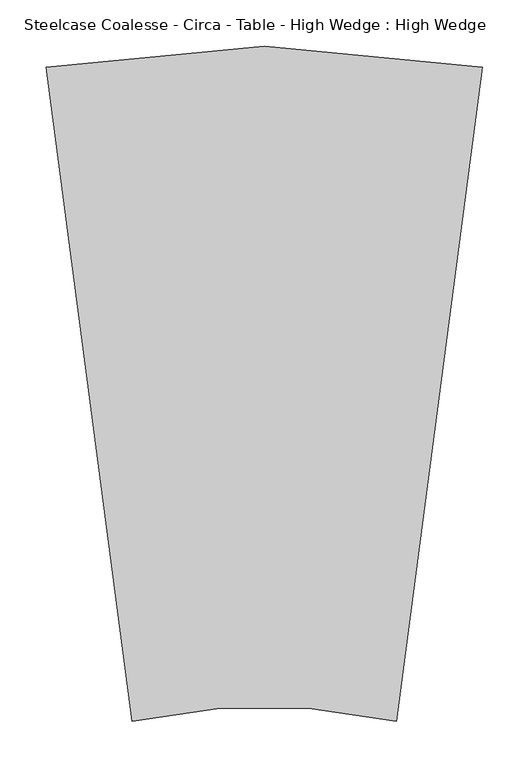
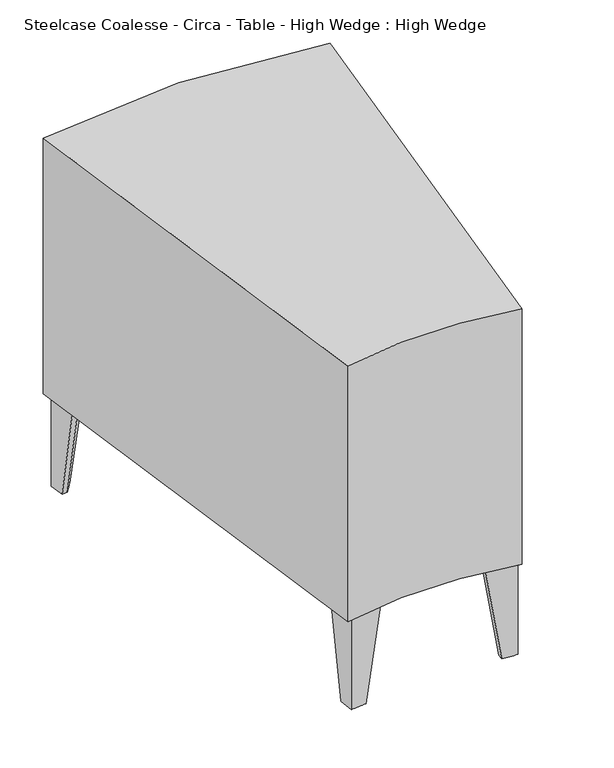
"""IFC4 building model written with IfcOpenShell, lengths in millimetres: furniture geometry, Steelcase Coalesse - Circa - Table - High Wedge : High Wedge."""

import ifcopenshell
import ifcopenshell.guid

model = None  # the IFC model being written
_history = None  # IfcOwnerHistory: only IFC2X3 demands one
_inside = {}  # id of a spatial element -> (the spatial element, [elements in it])
_under = {}  # id of a project, library or spatial element -> (it, [spatial elements below it])
_declared = {}  # id of a project -> (the project, [libraries it declares])
_typed = {}  # id of a type object -> (the type object, [elements of that type])
_made_of = {}  # id of a material, layer set ... -> (it, [elements and type objects made of it])


def new_model(schema):
    """Start an empty IFC model of exactly this schema.

    Asked for "IFC4X3", IfcOpenShell would pick the latest addendum, in which some entities
    have other attributes; the version numbers below select the first issue.
    IFC2X3 requires an IfcOwnerHistory on every rooted entity: one is made here for all.
    """
    global model, _history
    if schema == "IFC4X3":
        model = ifcopenshell.file(schema_version=(4, 3, 0, 0))
    else:
        model = ifcopenshell.file(schema=schema)
    _inside.clear()
    _under.clear()
    _declared.clear()
    _typed.clear()
    _made_of.clear()
    _history = None
    if model.schema == "IFC2X3":
        org = make("IfcOrganization", Name="unknown")
        user = make(
            "IfcPersonAndOrganization",
            ThePerson=make("IfcPerson", FamilyName="unknown"),
            TheOrganization=org,
        )
        app = make(
            "IfcApplication",
            ApplicationDeveloper=org,
            Version="unknown",
            ApplicationFullName="unknown",
            ApplicationIdentifier="unknown",
        )
        _history = make(
            "IfcOwnerHistory",
            OwningUser=user,
            OwningApplication=app,
            ChangeAction="ADDED",
            CreationDate=0,
        )
    return model


def make(cls, **values):
    """One entity of the class cls with the attributes given. An attribute that is None is left unset."""
    return model.create_entity(
        cls, **{name: value for name, value in values.items() if value is not None}
    )


def rooted(cls, **values):
    """An entity with a GlobalId (a new one), such as an element, a storey or a relation."""
    return make(cls, GlobalId=ifcopenshell.guid.new(), OwnerHistory=_history, **values)


def si_unit(unit_type, name, prefix=None):
    """IfcSIUnit, for example si_unit("LENGTHUNIT", "METRE", prefix="MILLI")."""
    return make("IfcSIUnit", UnitType=unit_type, Prefix=prefix, Name=name)


def assignment(units):
    """IfcUnitAssignment: the units of a project."""
    return None if units is None else make("IfcUnitAssignment", Units=units)


def point(xyz):
    """IfcCartesianPoint."""
    return None if xyz is None else make("IfcCartesianPoint", Coordinates=xyz)


def direction(xyz):
    """IfcDirection."""
    return None if xyz is None else make("IfcDirection", DirectionRatios=xyz)


def frame(location, z_axis=None, x_axis=None):
    """IfcAxis2Placement3D, a coordinate frame: its origin and axes. An axis left out is left unset."""
    return make(
        "IfcAxis2Placement3D",
        Location=point(location),
        Axis=direction(z_axis),
        RefDirection=direction(x_axis),
    )


def frame_2d(location, x_axis=None):
    """IfcAxis2Placement2D, a coordinate frame in the plane: its origin and x axis."""
    return make(
        "IfcAxis2Placement2D", Location=point(location), RefDirection=direction(x_axis)
    )


def origin():
    """The frame at (0, 0, 0) with its axes left unset."""
    return frame((0.0, 0.0, 0.0))


def place(relative_to, where):
    """IfcLocalPlacement: puts the frame where relative to a parent placement (None: the world)."""
    return make(
        "IfcLocalPlacement", PlacementRelTo=relative_to, RelativePlacement=where
    )


def context(
    kind, dimensions, precision=None, world=None, true_north=None, identifier=None
):
    """IfcGeometricRepresentationContext, for example the 3D "Model" context."""
    return make(
        "IfcGeometricRepresentationContext",
        ContextIdentifier=identifier,
        ContextType=kind,
        CoordinateSpaceDimension=dimensions,
        Precision=precision,
        WorldCoordinateSystem=world,
        TrueNorth=true_north,
    )


def project(units=None, contexts=None):
    """IfcProject with its units and contexts."""
    return rooted(
        "IfcProject",
        Name="project",
        RepresentationContexts=contexts,
        UnitsInContext=assignment(units),
    )


def spatial(cls, under=None, at=None, **own):
    """A site, building, storey or space (cls), placed at a placement, below another one or the project."""
    s = rooted(cls, ObjectPlacement=at, **own)
    if under is not None:
        _under.setdefault(under.id(), (under, []))[1].append(s)
    return s


def polyline(points):
    """IfcPolyline through the points."""
    return make("IfcPolyline", Points=[point(p) for p in points])


def circle_curve(where, radius):
    """IfcCircle in the frame where."""
    return make("IfcCircle", Position=where, Radius=radius)


def trimmed(basis, trim1, trim2, sense, master):
    """IfcTrimmedCurve: the piece of a basis curve between two trims."""
    return make(
        "IfcTrimmedCurve",
        BasisCurve=basis,
        Trim1=trim1,
        Trim2=trim2,
        SenseAgreement=sense,
        MasterRepresentation=master,
    )


def segment(curve, same_sense, transition):
    """IfcCompositeCurveSegment."""
    return make(
        "IfcCompositeCurveSegment",
        Transition=transition,
        SameSense=same_sense,
        ParentCurve=curve,
    )


def composite_curve(segments, self_intersect=None):
    """IfcCompositeCurve: segments joined end to end."""
    return make("IfcCompositeCurve", Segments=segments, SelfIntersect=self_intersect)


def outline(outer, holes=None, kind="AREA"):
    """IfcArbitraryClosedProfileDef: a profile drawn as a closed curve; with holes, ...WithVoids."""
    if holes is None:
        return make("IfcArbitraryClosedProfileDef", ProfileType=kind, OuterCurve=outer)
    return make(
        "IfcArbitraryProfileDefWithVoids",
        ProfileType=kind,
        OuterCurve=outer,
        InnerCurves=holes,
    )


def extrude(swept, where, along, depth):
    """IfcExtrudedAreaSolid: the profile swept, set in the frame where, extruded along a direction by depth."""
    return make(
        "IfcExtrudedAreaSolid",
        SweptArea=swept,
        Position=where,
        ExtrudedDirection=direction(along),
        Depth=depth,
    )


def shape(context_of_items, identifier, shape_type, items):
    """IfcShapeRepresentation: the items that make up one representation, for example the "Body"."""
    return make(
        "IfcShapeRepresentation",
        ContextOfItems=context_of_items,
        RepresentationIdentifier=identifier,
        RepresentationType=shape_type,
        Items=items,
    )


def source(mapping_origin, context_of_items, identifier, shape_type, items):
    """IfcRepresentationMap: a shape defined once, which mapped items show again and again."""
    return make(
        "IfcRepresentationMap",
        MappingOrigin=mapping_origin,
        MappedRepresentation=shape(context_of_items, identifier, shape_type, items),
    )


def transform(
    local_origin,
    x_axis=None,
    y_axis=None,
    z_axis=None,
    scale=None,
    scale2=None,
    scale3=None,
    uniform=True,
):
    """IfcCartesianTransformationOperator3D, or its non-uniform kind. x_axis, y_axis, z_axis: its Axis1, 2, 3."""
    if uniform:
        return make(
            "IfcCartesianTransformationOperator3D",
            Axis1=direction(x_axis),
            Axis2=direction(y_axis),
            LocalOrigin=point(local_origin),
            Scale=scale,
            Axis3=direction(z_axis),
        )
    return make(
        "IfcCartesianTransformationOperator3DnonUniform",
        Axis1=direction(x_axis),
        Axis2=direction(y_axis),
        LocalOrigin=point(local_origin),
        Scale=scale,
        Axis3=direction(z_axis),
        Scale2=scale2,
        Scale3=scale3,
    )


def mapped(mapping_source, mapping_target):
    """IfcMappedItem: shows the shape of a source again, moved by a transform."""
    return make(
        "IfcMappedItem", MappingSource=mapping_source, MappingTarget=mapping_target
    )


def made_of(thing, what):
    """Note that an element or type object is made of a material, layer set ...; save() writes the relation."""
    if what is not None:
        _made_of.setdefault(what.id(), (what, []))[1].append(thing)
    return thing


def element(
    cls,
    number,
    at=None,
    inside=None,
    cuts=None,
    type_object=None,
    material=None,
    context=None,
    identifier="Body",
    shape_type=None,
    held_by="IfcProductDefinitionShape",
    body=None,
    shapes=None,
    **own,
):
    """One element of the class cls, such as IfcWall. Its Tag is "e" and its number.

    at: its placement. inside: the storey or other place that contains it. cuts: it is an
    opening in that element (IfcRelVoidsElement). A single representation is given by context,
    identifier, shape_type and body (its items); several are given by shapes. held_by: the class
    of the entity that holds the representations. save() writes the other relations.
    """
    e = rooted(cls, Tag="e%d" % number, ObjectPlacement=at, **own)
    if body is not None:
        shapes = [shape(context, identifier, shape_type, body)]
    if shapes is not None:
        e.Representation = make(held_by, Representations=shapes)
    if inside is not None:
        _inside.setdefault(inside.id(), (inside, []))[1].append(e)
    if cuts is not None:
        rooted(
            "IfcRelVoidsElement", RelatingBuildingElement=cuts, RelatedOpeningElement=e
        )
    if type_object is not None:
        _typed.setdefault(type_object.id(), (type_object, []))[1].append(e)
    return made_of(e, material)


def aggregate(whole, parts):
    """IfcRelAggregates: a whole, such as a stair, and the parts it consists of."""
    return rooted("IfcRelAggregates", RelatingObject=whole, RelatedObjects=parts)


def save(model, path):
    """Write the relations noted so far, then the file.

    IfcRelAggregates (storeys below a building ...), IfcRelContainedInSpatialStructure (elements
    in a storey), IfcRelDefinesByType, IfcRelAssociatesMaterial and IfcRelDeclares: one each for
    every whole, place, type object, material and project.
    """
    for whole, parts in _under.values():
        aggregate(whole, parts)
    for where, things in _inside.values():
        rooted(
            "IfcRelContainedInSpatialStructure",
            RelatedElements=things,
            RelatingStructure=where,
        )
    for kind, things in _typed.values():
        rooted("IfcRelDefinesByType", RelatedObjects=things, RelatingType=kind)
    for what, things in _made_of.values():
        rooted("IfcRelAssociatesMaterial", RelatedObjects=things, RelatingMaterial=what)
    for by, libraries in _declared.values():
        rooted("IfcRelDeclares", RelatingContext=by, RelatedDefinitions=libraries)
    model.write(path)


def plane_surface(at):
    """IfcPlane: the flat surface through the origin of the frame at, square to its z axis."""
    return make("IfcPlane", Position=at)


def spline_surface(u_degree, v_degree, points, u_multiplicities, v_multiplicities, u_knots, v_knots, weights=None):
    """IfcBSplineSurfaceWithKnots; with weights, IfcRationalBSplineSurfaceWithKnots. points: one row for each step in u."""
    own = dict(
        UDegree=u_degree,
        VDegree=v_degree,
        ControlPointsList=[[point(p) for p in row] for row in points],
        SurfaceForm="UNSPECIFIED",
        UClosed=False,
        VClosed=False,
        SelfIntersect=False,
        UMultiplicities=u_multiplicities,
        VMultiplicities=v_multiplicities,
        UKnots=u_knots,
        VKnots=v_knots,
        KnotSpec="UNSPECIFIED",
    )
    if weights is None:
        return make("IfcBSplineSurfaceWithKnots", **own)
    return make("IfcRationalBSplineSurfaceWithKnots", WeightsData=weights, **own)


def advanced_brep(points, edges, surfaces, faces):
    """IfcAdvancedBrep: a solid bounded by faces that lie on surfaces and meet in shared edges.

    An edge is (start, end): straight between two places in points (the first is 0);
    or (start, end, curve); or (start, end, curve, False) where it runs against its curve.
    A face is (place in surfaces, loops), or (place, loops, False) where it looks against
    its surface's normal. A loop lists edges by number (the first is 1), with a minus sign
    where the edge is run from its end to its start. The first loop is the outer one.
    """
    corners = [point(p) for p in points]
    vertices = [make("IfcVertexPoint", VertexGeometry=c) for c in corners]
    made = []
    for start, end, *more in edges:
        made.append(
            make(
                "IfcEdgeCurve",
                EdgeStart=vertices[start],
                EdgeEnd=vertices[end],
                EdgeGeometry=more[0] if more else make("IfcPolyline", Points=[corners[start], corners[end]]),
                SameSense=more[1] if len(more) > 1 else True,
            )
        )
    hull = []
    for where, loops, *sense in faces:
        bounds = []
        for j, loop in enumerate(loops):
            ring = [make("IfcOrientedEdge", EdgeElement=made[abs(k) - 1], Orientation=k > 0) for k in loop]
            bounds.append(
                make(
                    "IfcFaceOuterBound" if j == 0 else "IfcFaceBound",
                    Bound=make("IfcEdgeLoop", EdgeList=ring),
                    Orientation=True,
                )
            )
        hull.append(make("IfcAdvancedFace", Bounds=bounds, FaceSurface=surfaces[where], SameSense=sense[0] if sense else True))
    return make("IfcAdvancedBrep", Outer=make("IfcClosedShell", CfsFaces=hull))


def steelcase_coalesse_circa_table_high_wedge_high_wedge_dc0570ff(model_context):
    return source(origin(), model_context, "Body", "SolidModel", [
        advanced_brep(
        [(-289.1147502, -481.7616932, 0.0), (-314.4165511, -479.5480725, 0.0), (-313.5863272, -470.0585699, 0.0), (-296.3891634, -455.6281677, 0.0), (-286.9009943, -456.4583479, 0.0), (-289.1140676, -481.7605615, 159.258), (-284.6867754, -431.1563805, 159.258), (-294.1755299, -430.326222, 159.258), (-338.8886947, -467.8447537, 159.258), (-339.7188214, -477.3331462, 159.258)],
        [
            (0, 1),
            (1, 2),
            (2, 3),
            (3, 4),
            (4, 0),
            (5, 6),
            (6, 7),
            (7, 8),
            (8, 9),
            (9, 5),
            (9, 1),
            (0, 5),
            (8, 2),
            (7, 3),
            (6, 4),
        ],
        [
            plane_surface(frame((-300.0815573, -468.6909703, 0.0), z_axis=(0.0, 0.0, -1.0000000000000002), x_axis=(-0.996194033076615, 0.08716334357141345, 0.0))),
            plane_surface(frame((-309.3167778, -457.6842128, 159.258), z_axis=(0.0, 0.0, 1.0000000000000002), x_axis=(-0.996194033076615, 0.08716334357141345, 0.0))),
            spline_surface(1, 1, [[(-289.1140676, -481.7605615, 159.258), (-289.1147502, -481.7616932, 0.0)], [(-339.7188214, -477.3331462, 159.258), (-314.4165511, -479.5480725, 0.0)]], [2, 2], [2, 2], [0.0, 1.0], [0.0, 1.0]),
            plane_surface(frame((-339.3037581, -472.58895, 159.258), z_axis=(-0.9837622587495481, 0.0860680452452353, -0.1574932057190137), x_axis=(0.08715574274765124, 0.9961946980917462, 0.0))),
            spline_surface(1, 1, [[(-338.8886947, -467.8447537, 159.258), (-313.5863272, -470.0585699, 0.0)], [(-294.1755299, -430.326222, 159.258), (-296.3891634, -455.6281677, 0.0)]], [2, 2], [2, 2], [0.0, 1.0], [0.0, 1.0]),
            spline_surface(1, 1, [[(-294.1755299, -430.326222, 159.258), (-296.3891634, -455.6281677, 0.0)], [(-284.6867754, -431.1563805, 159.258), (-286.9009943, -456.4583479, 0.0)]], [2, 2], [2, 2], [0.0, 1.0], [0.0, 1.0]),
            plane_surface(frame((-286.9004215, -456.458471, 159.258), z_axis=(0.9961946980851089, -0.08715574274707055, -3.6504280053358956e-06), x_axis=(-0.08715574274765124, -0.9961946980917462, 0.0))),
        ],
        [
            (0, [[1, 2, 3, 4, 5]]),
            (1, [[6, 7, 8, 9, 10]]),
            (2, [[-10, 11, -1, 12]]),
            (3, [[-9, 13, -2, -11]]),
            (4, [[-8, 14, -3, -13]]),
            (5, [[-7, 15, -4, -14]]),
            (6, [[-6, -12, -5, -15]]),
        ],
    ),
        advanced_brep(
        [(-212.788097, 209.3147303, 0.0), (-215.7132735, 184.0849256, 0.0), (-225.1748924, 185.1819181, 0.0), (-239.1150626, 202.7787281, 0.0), (-238.0181183, 212.239932, 0.0), (-212.788097, 209.3147303, 159.258), (-263.2475684, 215.1650125, 159.258), (-264.3445106, 205.7038267, 159.258), (-228.1000627, 159.9521675, 159.258), (-218.6384437, 158.855175, 159.258)],
        [
            (0, 1),
            (1, 2),
            (2, 3),
            (3, 4),
            (4, 0),
            (5, 6),
            (6, 7),
            (7, 8),
            (8, 9),
            (9, 5),
            (9, 1),
            (0, 5),
            (8, 2),
            (7, 3),
            (6, 4),
        ],
        [
            plane_surface(frame((-226.1618888, 198.7200468, 0.0), z_axis=(0.0, 0.0, -1.0000000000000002), x_axis=(0.9933458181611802, -0.11516981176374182, 0.0))),
            plane_surface(frame((-237.4237365, 189.7981824, 159.258), z_axis=(0.0, 0.0, 1.0000000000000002), x_axis=(0.9933458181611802, -0.11516981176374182, 0.0))),
            plane_surface(frame((-215.7132704, 184.0849527, 159.258), z_axis=(0.9933458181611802, -0.11516981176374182, 0.0), x_axis=(-0.11516981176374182, -0.9933458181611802, 0.0))),
            plane_surface(frame((-223.3692532, 159.4036712, 159.258), z_axis=(-0.11373253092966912, -0.9809491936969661, -0.15749155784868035), x_axis=(-0.9933458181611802, 0.11516981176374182, 0.0))),
            spline_surface(1, 1, [[(-228.1000627, 159.9521675, 159.258), (-225.1748924, 185.1819181, 0.0)], [(-264.3445106, 205.7038267, 159.258), (-239.1150626, 202.7787281, 0.0)]], [2, 2], [2, 2], [0.0, 1.0], [0.0, 1.0]),
            plane_surface(frame((-263.7960395, 210.4344196, 159.258), z_axis=(-0.9809494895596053, 0.11373256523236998, -0.15748969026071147), x_axis=(0.11516981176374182, 0.9933458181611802, 0.0))),
            spline_surface(1, 1, [[(-263.2475684, 215.1650125, 159.258), (-238.0181183, 212.239932, 0.0)], [(-212.788097, 209.3147303, 159.258), (-212.788097, 209.3147303, 0.0)]], [2, 2], [2, 2], [0.0, 1.0], [0.0, 1.0]),
        ],
        [
            (0, [[1, 2, 3, 4, 5]]),
            (1, [[6, 7, 8, 9, 10]]),
            (2, [[-10, 11, -1, 12]]),
            (3, [[-9, 13, -2, -11]]),
            (4, [[-8, 14, -3, -13]]),
            (5, [[-7, 15, -4, -14]]),
            (6, [[-6, -12, -5, -15]]),
        ],
    ),
        advanced_brep(
        [(-654.512558, 209.3147303, 0.0), (-629.2825367, 212.239932, 0.0), (-628.1855924, 202.7787281, 0.0), (-642.1257626, 185.1819181, 0.0), (-651.5873815, 184.0849256, 0.0), (-654.512558, 209.3147303, 159.258), (-648.6622113, 158.855175, 159.258), (-639.2005924, 159.9521675, 159.258), (-602.9561444, 205.7038267, 159.258), (-604.0530867, 215.1650125, 159.258)],
        [
            (0, 1),
            (1, 2),
            (2, 3),
            (3, 4),
            (4, 0),
            (5, 6),
            (6, 7),
            (7, 8),
            (8, 9),
            (9, 5),
            (9, 1),
            (0, 5),
            (8, 2),
            (7, 3),
            (6, 4),
        ],
        [
            plane_surface(frame((-641.1387663, 198.7200468, 0.0), z_axis=(0.0, 0.0, -1.0000000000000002), x_axis=(0.6209592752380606, 0.7838428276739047, 0.0))),
            plane_surface(frame((-629.8769185, 189.7981824, 159.258), z_axis=(0.0, 0.0, 1.0000000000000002), x_axis=(0.6209592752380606, 0.7838428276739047, 0.0))),
            spline_surface(1, 1, [[(-654.512558, 209.3147303, 159.258), (-654.512558, 209.3147303, 0.0)], [(-604.0530867, 215.1650125, 159.258), (-629.2825367, 212.239932, 0.0)]], [2, 2], [2, 2], [0.0, 1.0], [0.0, 1.0]),
            plane_surface(frame((-603.5046155, 210.4344196, 159.258), z_axis=(0.9809494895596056, 0.11373256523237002, -0.15748969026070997), x_axis=(0.11516981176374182, -0.9933458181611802, 0.0))),
            spline_surface(1, 1, [[(-602.9561444, 205.7038267, 159.258), (-628.1855924, 202.7787281, 0.0)], [(-639.2005924, 159.9521675, 159.258), (-642.1257626, 185.1819181, 0.0)]], [2, 2], [2, 2], [0.0, 1.0], [0.0, 1.0]),
            plane_surface(frame((-643.9314018, 159.4036712, 159.258), z_axis=(0.11373253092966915, -0.9809491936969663, -0.15749155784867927), x_axis=(-0.9933458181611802, -0.11516981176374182, 0.0))),
            plane_surface(frame((-651.5873846, 184.0849527, 159.258), z_axis=(-0.9933458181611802, -0.11516981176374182, 0.0), x_axis=(-0.11516981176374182, 0.9933458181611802, 0.0))),
        ],
        [
            (0, [[1, 2, 3, 4, 5]]),
            (1, [[6, 7, 8, 9, 10]]),
            (2, [[-10, 11, -1, 12]]),
            (3, [[-9, 13, -2, -11]]),
            (4, [[-8, 14, -3, -13]]),
            (5, [[-7, 15, -4, -14]]),
            (6, [[-6, -12, -5, -15]]),
        ],
    ),
        advanced_brep(
        [(-561.9101146, -481.7616932, 0.0), (-564.1238704, -456.4583479, 0.0), (-554.6357014, -455.6281677, 0.0), (-537.4385375, -470.0585699, 0.0), (-536.6083136, -479.5480725, 0.0), (-561.9107972, -481.7605615, 159.258), (-511.3060433, -477.3331462, 159.258), (-512.1361701, -467.8447537, 159.258), (-556.8493348, -430.326222, 159.258), (-566.3380893, -431.1563805, 159.258)],
        [
            (0, 1),
            (1, 2),
            (2, 3),
            (3, 4),
            (4, 0),
            (5, 6),
            (6, 7),
            (7, 8),
            (8, 9),
            (9, 5),
            (9, 1),
            (0, 5),
            (8, 2),
            (7, 3),
            (6, 4),
        ],
        [
            plane_surface(frame((-550.9433075, -468.6909703, 0.0), z_axis=(0.0, 0.0, -1.0000000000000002), x_axis=(0.08715574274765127, -0.9961946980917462, 0.0))),
            plane_surface(frame((-541.708087, -457.6842128, 159.258), z_axis=(0.0, 0.0, 1.0000000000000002), x_axis=(0.08715574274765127, -0.9961946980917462, 0.0))),
            plane_surface(frame((-564.1244433, -456.458471, 159.258), z_axis=(-0.9961946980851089, -0.08715574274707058, -3.650428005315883e-06), x_axis=(-0.08715574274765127, 0.9961946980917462, 0.0))),
            spline_surface(1, 1, [[(-566.3380893, -431.1563805, 159.258), (-564.1238704, -456.4583479, 0.0)], [(-556.8493348, -430.326222, 159.258), (-554.6357014, -455.6281677, 0.0)]], [2, 2], [2, 2], [0.0, 1.0], [0.0, 1.0]),
            spline_surface(1, 1, [[(-556.8493348, -430.326222, 159.258), (-554.6357014, -455.6281677, 0.0)], [(-512.1361701, -467.8447537, 159.258), (-537.4385375, -470.0585699, 0.0)]], [2, 2], [2, 2], [0.0, 1.0], [0.0, 1.0]),
            plane_surface(frame((-511.7211067, -472.58895, 159.258), z_axis=(0.9837622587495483, 0.08606804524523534, -0.157493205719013), x_axis=(0.08715574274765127, -0.9961946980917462, 0.0))),
            spline_surface(1, 1, [[(-511.3060433, -477.3331462, 159.258), (-536.6083136, -479.5480725, 0.0)], [(-561.9107972, -481.7605615, 159.258), (-561.9101146, -481.7616932, 0.0)]], [2, 2], [2, 2], [0.0, 1.0], [0.0, 1.0]),
        ],
        [
            (0, [[1, 2, 3, 4, 5]]),
            (1, [[6, 7, 8, 9, 10]]),
            (2, [[-10, 11, -1, 12]]),
            (3, [[-9, 13, -2, -11]]),
            (4, [[-8, 14, -3, -13]]),
            (5, [[-7, 15, -4, -14]]),
            (6, [[-6, -12, -5, -15]]),
        ],
    ),
        extrude(outline(composite_curve([segment(trimmed(circle_curve(frame_2d((-428.9229635, -1121.0199718)), 647.9946116), [point((-286.6264165, -488.8422203))], [point((-571.2195104, -488.8422203))], True, "CARTESIAN"), True, "CONTINUOUS"), segment(polyline([(-571.2195104, -488.8422203), (-663.917922, 216.2403236)]), True, "CONTINUOUS"), segment(trimmed(circle_curve(frame_2d((-428.9226728, -1011.0737262)), 1249.6089564), [point((-663.917922, 216.2403236))], [point((-193.9274236, 216.2403236))], False, "CARTESIAN"), True, "CONTINUOUS"), segment(polyline([(-193.9274236, 216.2403236), (-286.6264165, -488.8422203)]), True, "CONTINUOUS")], self_intersect=False)), frame((0.0, 0.0, 159.258), z_axis=(0.0, 0.0, 1.0), x_axis=(1.0, 0.0, 0.0)), (0.0, 0.0, 1.0), 442.214),
    ])


if __name__ == "__main__":
    model = new_model("IFC4")
    model_context = context("Model", 3, world=origin())
    ifc_project = project(units=[si_unit("LENGTHUNIT", "METRE", prefix="MILLI")], contexts=[model_context])
    site = spatial("IfcSite", under=ifc_project)
    building = spatial("IfcBuilding", under=site)
    placement = place(None, origin())
    steelcase_coalesse_circa_table_high_wedge_high_wedge_shape = steelcase_coalesse_circa_table_high_wedge_high_wedge_dc0570ff(model_context)
    element("IfcFurniture", 1, ObjectType="Steelcase Coalesse - Circa - Table - High Wedge : High Wedge", at=placement, inside=building, context=model_context, shape_type="MappedRepresentation", body=[
        mapped(steelcase_coalesse_circa_table_high_wedge_high_wedge_shape, transform((0.0, 0.0, 0.0), x_axis=(1.0, 0.0, 0.0), y_axis=(0.0, 1.0, 0.0), z_axis=(0.0, 0.0, 1.0))),
    ])
    save(model, "model.ifc")
